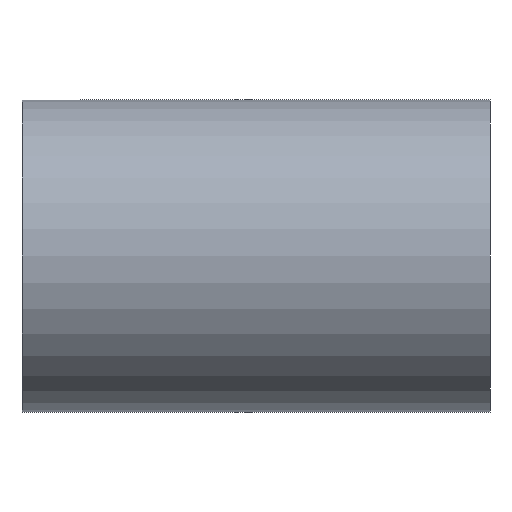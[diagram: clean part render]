
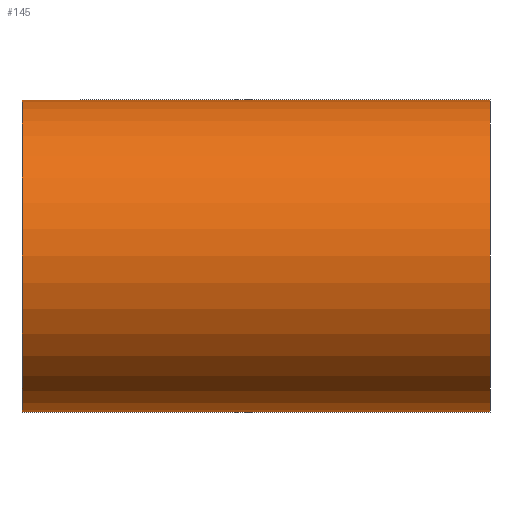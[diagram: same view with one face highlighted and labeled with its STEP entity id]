
A CAD part, front view. The second image highlights one B-rep face of the part: STEP entity #145.
In plain terms, the highlighted cylindrical face has radius 5 mm (diameter 10 mm), a partial arc.
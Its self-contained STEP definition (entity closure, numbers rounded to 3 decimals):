
#47 = CARTESIAN_POINT ( 'NONE',  ( 0., 0., 5. ) ) ;
#48 = CYLINDRICAL_SURFACE ( 'NONE', #272, 5. ) ;
#67 = CIRCLE ( 'NONE', #574, 5. ) ;
#72 = EDGE_LOOP ( 'NONE', ( #162, #399, #306, #597 ) ) ;
#145 = ADVANCED_FACE ( 'NONE', ( #389 ), #48, .T. ) ;
#153 = AXIS2_PLACEMENT_3D ( 'NONE', #432, #440, #253 ) ;
#162 = ORIENTED_EDGE ( 'NONE', *, *, #346, .F. ) ;
#163 = DIRECTION ( 'NONE',  ( 0., 0., 1. ) ) ;
#171 = CARTESIAN_POINT ( 'NONE',  ( 7.5, 0., -5. ) ) ;
#231 = VECTOR ( 'NONE', #471, 1000. ) ;
#253 = DIRECTION ( 'NONE',  ( 0., 0., 1. ) ) ;
#272 = AXIS2_PLACEMENT_3D ( 'NONE', #795, #604, #867 ) ;
#306 = ORIENTED_EDGE ( 'NONE', *, *, #446, .T. ) ;
#316 = CARTESIAN_POINT ( 'NONE',  ( -7.5, 0., 5. ) ) ;
#318 = VECTOR ( 'NONE', #439, 1000. ) ;
#346 = EDGE_CURVE ( 'NONE', #883, #641, #573, .T. ) ;
#389 = FACE_OUTER_BOUND ( 'NONE', #72, .T. ) ;
#399 = ORIENTED_EDGE ( 'NONE', *, *, #757, .T. ) ;
#432 = CARTESIAN_POINT ( 'NONE',  ( 7.5, 0., 0. ) ) ;
#439 = DIRECTION ( 'NONE',  ( -1., 0., 0. ) ) ;
#440 = DIRECTION ( 'NONE',  ( -1., 0., 0. ) ) ;
#446 = EDGE_CURVE ( 'NONE', #777, #797, #736, .T. ) ;
#449 = CIRCLE ( 'NONE', #153, 5. ) ;
#471 = DIRECTION ( 'NONE',  ( -1., 0., 0. ) ) ;
#568 = CARTESIAN_POINT ( 'NONE',  ( -7.5, 0., 0. ) ) ;
#573 = LINE ( 'NONE', #773, #318 ) ;
#574 = AXIS2_PLACEMENT_3D ( 'NONE', #568, #831, #163 ) ;
#597 = ORIENTED_EDGE ( 'NONE', *, *, #646, .F. ) ;
#604 = DIRECTION ( 'NONE',  ( -1., 0., 0. ) ) ;
#641 = VERTEX_POINT ( 'NONE', #703 ) ;
#646 = EDGE_CURVE ( 'NONE', #641, #797, #67, .T. ) ;
#659 = CARTESIAN_POINT ( 'NONE',  ( 7.5, 0., 5. ) ) ;
#703 = CARTESIAN_POINT ( 'NONE',  ( -7.5, 0., -5. ) ) ;
#736 = LINE ( 'NONE', #47, #231 ) ;
#757 = EDGE_CURVE ( 'NONE', #883, #777, #449, .T. ) ;
#773 = CARTESIAN_POINT ( 'NONE',  ( 0., 0., -5. ) ) ;
#777 = VERTEX_POINT ( 'NONE', #659 ) ;
#795 = CARTESIAN_POINT ( 'NONE',  ( 0., 0., 0. ) ) ;
#797 = VERTEX_POINT ( 'NONE', #316 ) ;
#831 = DIRECTION ( 'NONE',  ( -1., 0., 0. ) ) ;
#867 = DIRECTION ( 'NONE',  ( 0., 0., 1. ) ) ;
#883 = VERTEX_POINT ( 'NONE', #171 ) ;
